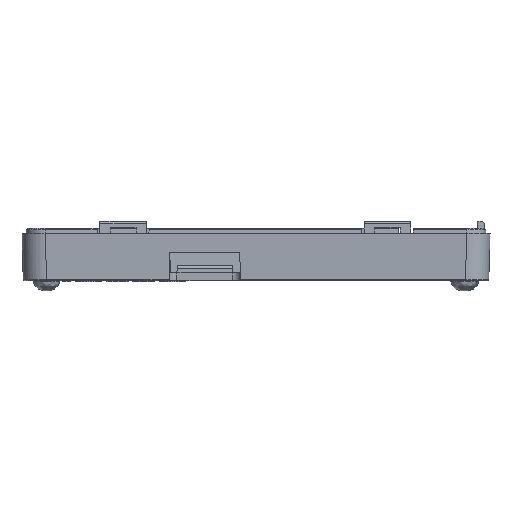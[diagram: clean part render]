
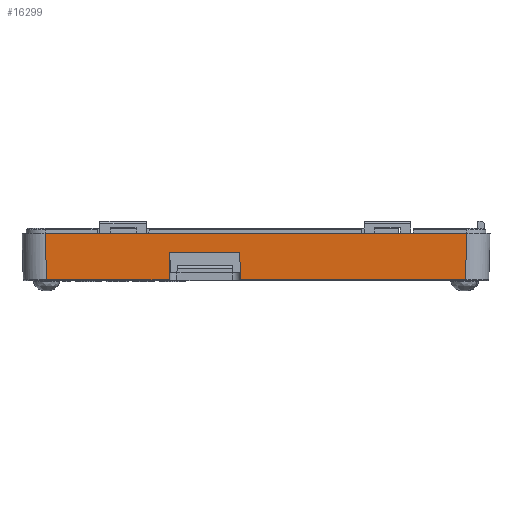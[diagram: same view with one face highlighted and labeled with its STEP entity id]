
A CAD part, front view. The second image highlights one B-rep face of the part: STEP entity #16299.
In plain terms, the highlighted planar face has unit normal (0, -1, -0.026).
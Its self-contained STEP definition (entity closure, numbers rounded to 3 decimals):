
#220 = VECTOR ( 'NONE', #6011, 1000. ) ;
#450 = VERTEX_POINT ( 'NONE', #16696 ) ;
#499 = CARTESIAN_POINT ( 'NONE',  ( 40.743, -30.741, 0.356 ) ) ;
#531 = ORIENTED_EDGE ( 'NONE', *, *, #9734, .F. ) ;
#597 = DIRECTION ( 'NONE',  ( 1., 0., 0. ) ) ;
#1455 = VERTEX_POINT ( 'NONE', #8127 ) ;
#1829 = CARTESIAN_POINT ( 'NONE',  ( -45., -30.8, 2.6 ) ) ;
#2009 = VERTEX_POINT ( 'NONE', #7769 ) ;
#2367 = CARTESIAN_POINT ( 'NONE',  ( -45., -30.706, -1. ) ) ;
#2790 = DIRECTION ( 'NONE',  ( -0.017, 0.026, -1. ) ) ;
#3515 = AXIS2_PLACEMENT_3D ( 'NONE', #1829, #7514, #17441 ) ;
#3842 = ORIENTED_EDGE ( 'NONE', *, *, #11653, .T. ) ;
#3882 = VECTOR ( 'NONE', #597, 1000. ) ;
#4290 = CARTESIAN_POINT ( 'NONE',  ( -40.268, -30.567, -6.305 ) ) ;
#4613 = EDGE_CURVE ( 'NONE', #1455, #16962, #5586, .T. ) ;
#4622 = CARTESIAN_POINT ( 'NONE',  ( 40.563, -30.567, -6.305 ) ) ;
#4837 = ORIENTED_EDGE ( 'NONE', *, *, #12233, .T. ) ;
#4922 = CARTESIAN_POINT ( 'NONE',  ( -2.971, -30.706, -1. ) ) ;
#5586 = LINE ( 'NONE', #12718, #16438 ) ;
#5718 = LINE ( 'NONE', #2367, #6148 ) ;
#5848 = VERTEX_POINT ( 'NONE', #13161 ) ;
#6011 = DIRECTION ( 'NONE',  ( -0.017, -0.026, 1. ) ) ;
#6148 = VECTOR ( 'NONE', #7997, 1000. ) ;
#6261 = VERTEX_POINT ( 'NONE', #4290 ) ;
#7467 = DIRECTION ( 'NONE',  ( 1., 0., 0. ) ) ;
#7514 = DIRECTION ( 'NONE',  ( 0., -1., -0.026 ) ) ;
#7551 = CARTESIAN_POINT ( 'NONE',  ( -16.622, -30.567, -6.305 ) ) ;
#7729 = LINE ( 'NONE', #14505, #220 ) ;
#7769 = CARTESIAN_POINT ( 'NONE',  ( -2.878, -30.567, -6.305 ) ) ;
#7943 = EDGE_CURVE ( 'NONE', #1455, #17639, #5718, .T. ) ;
#7997 = DIRECTION ( 'NONE',  ( 1., 0., 0. ) ) ;
#8127 = CARTESIAN_POINT ( 'NONE',  ( -16.529, -30.706, -1. ) ) ;
#9026 = ORIENTED_EDGE ( 'NONE', *, *, #4613, .F. ) ;
#9082 = CARTESIAN_POINT ( 'NONE',  ( 40.563, -30.567, -6.305 ) ) ;
#9152 = EDGE_CURVE ( 'NONE', #2009, #5848, #17948, .T. ) ;
#9734 = EDGE_CURVE ( 'NONE', #2009, #17639, #7729, .T. ) ;
#9796 = CARTESIAN_POINT ( 'NONE',  ( 40.802, -30.8, 2.6 ) ) ;
#10098 = VECTOR ( 'NONE', #13814, 1000. ) ;
#10378 = EDGE_LOOP ( 'NONE', ( #531, #12986, #3842, #17423, #11800, #4837, #9026, #15736 ) ) ;
#10481 = LINE ( 'NONE', #16128, #10914 ) ;
#10578 = CARTESIAN_POINT ( 'NONE',  ( -45., -30.8, 2.6 ) ) ;
#10914 = VECTOR ( 'NONE', #11938, 1000. ) ;
#11653 = EDGE_CURVE ( 'NONE', #5848, #17268, #13227, .T. ) ;
#11800 = ORIENTED_EDGE ( 'NONE', *, *, #14128, .T. ) ;
#11938 = DIRECTION ( 'NONE',  ( 0.026, 0.026, -0.999 ) ) ;
#12233 = EDGE_CURVE ( 'NONE', #6261, #16962, #14313, .T. ) ;
#12718 = CARTESIAN_POINT ( 'NONE',  ( -16.475, -30.787, 2.102 ) ) ;
#12835 = EDGE_CURVE ( 'NONE', #450, #17268, #16733, .T. ) ;
#12986 = ORIENTED_EDGE ( 'NONE', *, *, #9152, .T. ) ;
#13085 = FACE_OUTER_BOUND ( 'NONE', #10378, .T. ) ;
#13161 = CARTESIAN_POINT ( 'NONE',  ( 40.568, -30.567, -6.305 ) ) ;
#13227 = LINE ( 'NONE', #499, #16539 ) ;
#13327 = DIRECTION ( 'NONE',  ( 0.026, -0.026, 0.999 ) ) ;
#13814 = DIRECTION ( 'NONE',  ( 1., 0., 0. ) ) ;
#14128 = EDGE_CURVE ( 'NONE', #450, #6261, #10481, .T. ) ;
#14313 = LINE ( 'NONE', #9082, #3882 ) ;
#14505 = CARTESIAN_POINT ( 'NONE',  ( -3.047, -30.819, 3.332 ) ) ;
#15736 = ORIENTED_EDGE ( 'NONE', *, *, #7943, .T. ) ;
#16009 = PLANE ( 'NONE',  #3515 ) ;
#16128 = CARTESIAN_POINT ( 'NONE',  ( -40.505, -30.803, 2.718 ) ) ;
#16299 = ADVANCED_FACE ( 'NONE', ( #13085 ), #16009, .T. ) ;
#16438 = VECTOR ( 'NONE', #2790, 1000. ) ;
#16539 = VECTOR ( 'NONE', #13327, 1000. ) ;
#16696 = CARTESIAN_POINT ( 'NONE',  ( -40.502, -30.8, 2.6 ) ) ;
#16733 = LINE ( 'NONE', #10578, #10098 ) ;
#16962 = VERTEX_POINT ( 'NONE', #7551 ) ;
#17268 = VERTEX_POINT ( 'NONE', #9796 ) ;
#17423 = ORIENTED_EDGE ( 'NONE', *, *, #12835, .F. ) ;
#17441 = DIRECTION ( 'NONE',  ( 0., 0.026, -1. ) ) ;
#17513 = VECTOR ( 'NONE', #7467, 1000. ) ;
#17639 = VERTEX_POINT ( 'NONE', #4922 ) ;
#17948 = LINE ( 'NONE', #4622, #17513 ) ;
